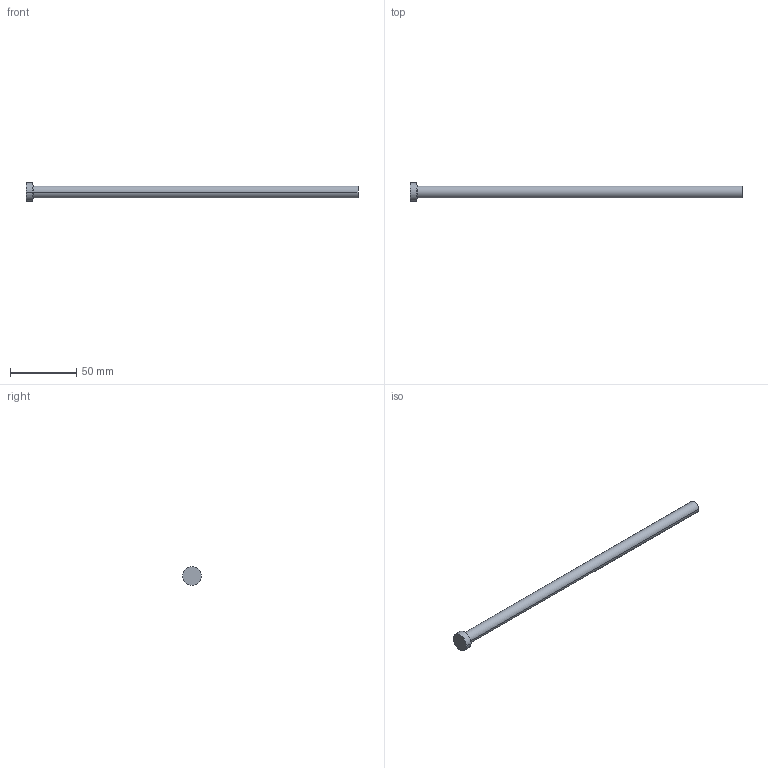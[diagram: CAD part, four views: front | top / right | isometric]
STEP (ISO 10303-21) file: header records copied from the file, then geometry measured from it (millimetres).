
FILE_DESCRIPTION (( 'STEP AP214' ), '1' );
FILE_NAME ('A-9x250.STEP', '2020-05-29T15:56:48', ( 'August' ), ( '' ), 'SwSTEP 2.0', 'SolidWorks 2018', '' );
FILE_SCHEMA (( 'AUTOMOTIVE_DESIGN' ));
Length unit declared in the file: millimetre
Products named in the file (1): A-9x250
Bounding box: 250 x 14 x 14 mm (x, y, z)
Volume: 16357.5 mm3; surface area: 7449 mm2
Topology: 1 solids, 1 shells, 9 faces, 16 edges, 10 vertices
Faces by surface type: cylinder 4, plane 3, torus 2
Entity records: 260 total; most frequent: DIRECTION 48, CARTESIAN_POINT 36, ORIENTED_EDGE 32, AXIS2_PLACEMENT_3D 22, EDGE_CURVE 16, CIRCLE 12, VERTEX_POINT 10, EDGE_LOOP 10
